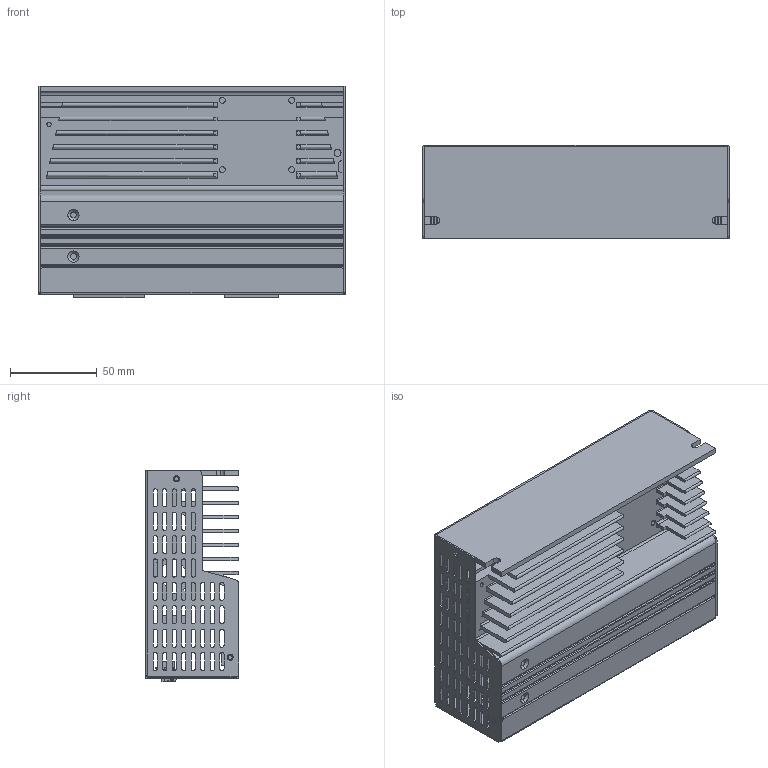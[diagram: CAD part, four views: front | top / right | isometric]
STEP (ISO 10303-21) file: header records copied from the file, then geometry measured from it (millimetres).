
FILE_DESCRIPTION (( 'STEP AP203' ), '1' );
FILE_NAME ('SRAC8.STEP', '2014-09-09T23:41:29', ( 'Theo' ), ( 'Microsoft' ), 'SwSTEP 2.0', 'SolidWorks 2014', '' );
FILE_SCHEMA (( 'CONFIG_CONTROL_DESIGN' ));
Length unit declared in the file: millimetre
Products named in the file (5): 8 Pin Signal Header; SRAC8; SRAC8 Cover___; SRAC8 Heatsink; 8 Pin Power Header
Assembly tree (4 placements, depth 2):
  SRAC8
    SRAC8 Cover___
    SRAC8 Heatsink
    8 Pin Power Header
    8 Pin Signal Header
Bounding box: 177 x 54 x 122.22 mm (x, y, z)
Volume: 251549.5 mm3; surface area: 197616.9 mm2
Topology: 4 solids, 4 shells, 1643 faces, 4676 edges, 3084 vertices
Faces by surface type: plane 1066, cylinder 541, cone 20, torus 16
Entity records: 54209 total; most frequent: CARTESIAN_POINT 9990, ORIENTED_EDGE 9352, DIRECTION 8808, EDGE_CURVE 4676, VECTOR 3460, LINE 3460, VERTEX_POINT 3084, AXIS2_PLACEMENT_3D 2674
